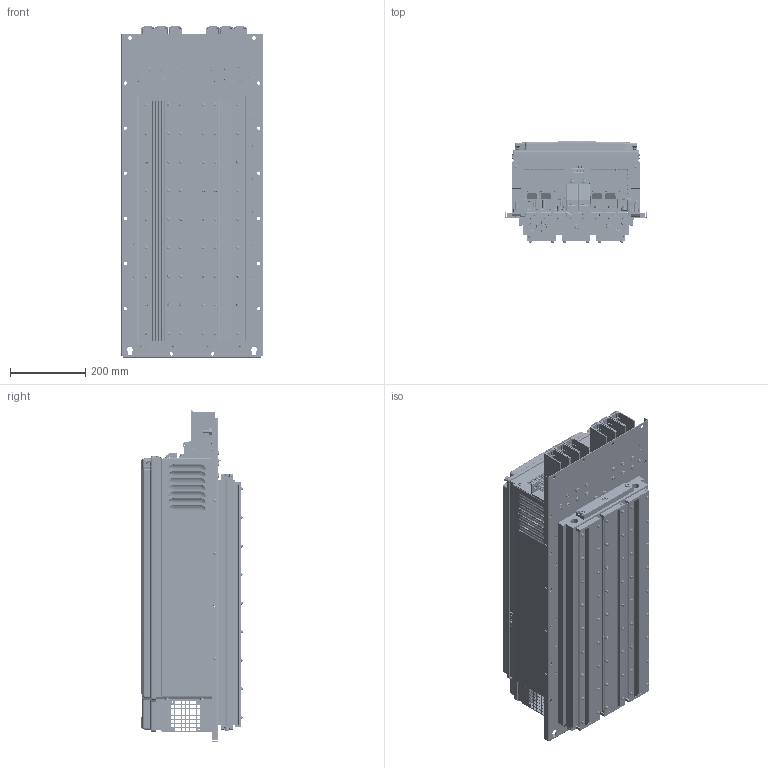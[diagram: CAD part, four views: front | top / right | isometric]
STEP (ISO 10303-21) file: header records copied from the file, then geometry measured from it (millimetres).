
FILE_DESCRIPTION (( 'STEP AP214' ), '1' );
FILE_NAME ('10013725_000.STEP', '2016-09-28T09:11:53', ( 'KEB' ), ( 'Karl E. Brinkmann GmbH' ), 'SwSTEP 2.0', 'SolidWorks 2013', '' );
FILE_SCHEMA (( 'AUTOMOTIVE_DESIGN' ));
Length unit declared in the file: millimetre
Products named in the file (1): 10013725_000
Bounding box: 377 x 269.14 x 882.76 mm (x, y, z)
Surface area: 2738454.3 mm2 (no closed solid volume)
Topology: 0 solids, 818 shells, 5309 faces, 24852 edges, 19777 vertices
Faces by surface type: plane 2678, cylinder 1556, cone 401, bspline 344, sphere 188, torus 142
Entity records: 354196 total; most frequent: CARTESIAN_POINT 101845, DIRECTION 39080, ORIENTED_EDGE 33266, EDGE_CURVE 24808, VERTEX_POINT 19777, VECTOR 15048, LINE 15048, AXIS2_PLACEMENT_3D 12016
